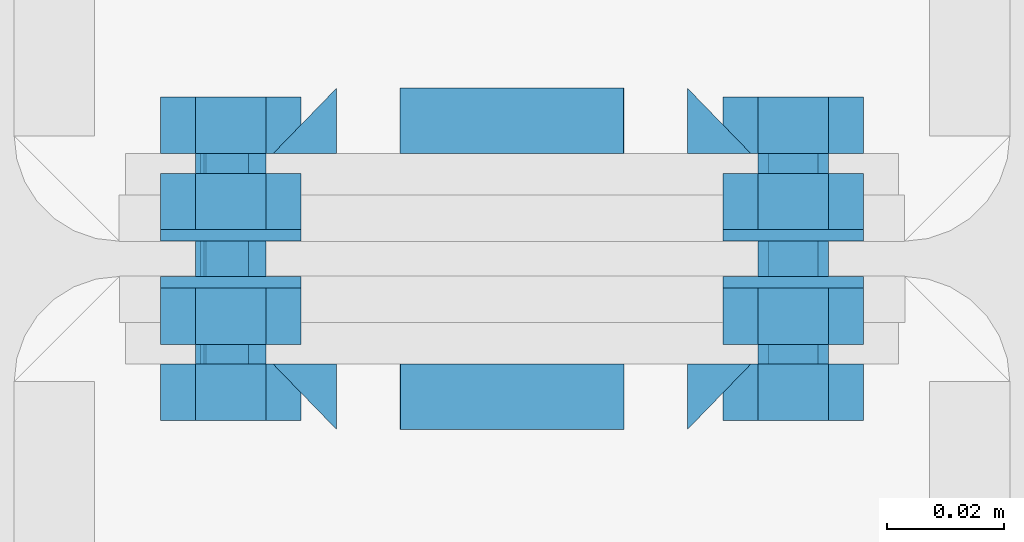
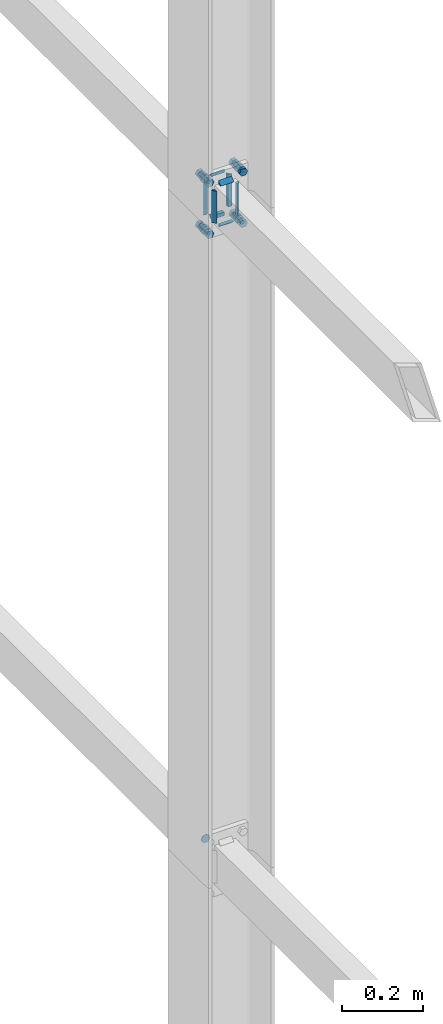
# One storey, part 114 of 251: 33 mechanical fasteners, 16 fasteners.
"""IFC4 building model written with IfcOpenShell, lengths in metres."""

from ifc_helpers import new_model, si_unit, frame, origin_with_axes, place, context, project, spatial, polyline, outline, extrude, type_object, element, save


model = new_model("IFC4")

# Units and contexts
model_context = context("Model", 3, precision=1e-05, world=origin_with_axes())
ifc_project = project(units=[si_unit("LENGTHUNIT", "METRE"), si_unit("AREAUNIT", "SQUARE_METRE"), si_unit("VOLUMEUNIT", "CUBIC_METRE"), si_unit("MASSUNIT", "GRAM", prefix="KILO"), si_unit("TIMEUNIT", "SECOND"), si_unit("PLANEANGLEUNIT", "RADIAN"), si_unit("SOLIDANGLEUNIT", "STERADIAN"), si_unit("THERMODYNAMICTEMPERATUREUNIT", "DEGREE_CELSIUS")], contexts=[model_context])

# Site, building, storey
placement_1 = place(None, origin_with_axes())
site = spatial("IfcSite", under=ifc_project, at=placement_1, Name="Italia", CompositionType="ELEMENT")
building = spatial("IfcBuilding", under=site, at=placement_1, Name="Deposito", CompositionType="ELEMENT")
storey = spatial("IfcBuildingStorey", under=building, at=placement_1, Name="Storey 0", CompositionType="ELEMENT", Elevation=0.0)

# Mechanical fastener
mechanical_fastener_type_1 = type_object("IfcMechanicalFastenerType", Name="Collegamenti -001_-002 -002_-001 -002_-003 -003_-002 -003_-004 -004_-003 -004_-008 -008_-004 -009_-010 -010_-009 -010_-011 -011_-010 -011_-012 -012_-011 -012_-016 -016_-012", PredefinedType="BOLT")
placement_2 = place(placement_1, origin_with_axes())
mechanical_fastener_1_placement = place(placement_2, origin_with_axes())
element("IfcMechanicalFastener", 1, at=mechanical_fastener_1_placement, inside=storey, type_object=mechanical_fastener_type_1, Name="Collegamenti -001_-002 -002_-001 -002_-003 -003_-002 -003_-004 -004_-003 -004_-008 -008_-004 -009_-010 -010_-009 -010_-011 -011_-010 -011_-012 -012_-011 -012_-016 -016_-012", NominalDiameter=0.024, context=model_context, shape_type="SweptSolid", body=[
    extrude(outline(polyline([(0.0, 0.0), (-0.000408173, -0.00310588), (-0.00160599, -0.00600004), (-0.00351334, -0.00848532), (-0.00599861, -0.0103923), (-0.00889397, -0.0115911), (-0.0119991, -0.012), (-0.0151043, -0.0115911), (-0.0179996, -0.0103923), (-0.0204849, -0.00848532), (-0.0223923, -0.00600004), (-0.0235901, -0.00310588), (-0.0239983, 0.0), (-0.0235901, 0.00310588), (-0.0223923, 0.00600004), (-0.0204849, 0.00848532), (-0.0179996, 0.0103923), (-0.0151043, 0.0115911), (-0.0119991, 0.012), (-0.00889397, 0.0115911), (-0.00599861, 0.0103923), (-0.00351334, 0.00848532), (-0.00160599, 0.00600004), (-0.000408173, 0.00310588), (0.0, 0.0)])), frame((19.94, 4.995, 1.078), z_axis=(0.0, 1.0, 0.0), x_axis=(-1.0, 0.0, 0.0)), (0.0, 0.0, 1.0), 0.00200033),
])

# Fasteners
fastener_type_1 = type_object("IfcFastenerType", Name="Collegamenti -001_-002 -002_-001 -002_-003 -003_-002 -003_-004 -004_-003 -004_-008 -008_-004 -009_-010 -010_-009 -010_-011 -011_-010 -011_-012 -012_-011 -012_-016 -016_-012", PredefinedType="WELD")
fastener_1_placement = place(placement_2, origin_with_axes())
element("IfcFastener", 2, at=fastener_1_placement, inside=storey, type_object=fastener_type_1, Name="Collegamenti -001_-002 -002_-001 -002_-003 -003_-002 -003_-004 -004_-003 -004_-008 -008_-004 -009_-010 -010_-009 -010_-011 -011_-010 -011_-012 -012_-011 -012_-016 -016_-012", context=model_context, shape_type="SweptSolid", body=[
    extrude(outline(polyline([(0.0, 0.0), (0.0111732, -0.0108383), (0.0, -0.0108383), (0.0, 0.0)])), frame((20.0191, 4.98205, 3.07079), z_axis=(-1.0, 0.0, 0.0), x_axis=(0.0, -1.0, 0.0)), (0.0, 0.0, 1.0), 0.0381012),
])
fastener_type_2 = type_object("IfcFastenerType", Name="Collegamenti -001_-002 -002_-001 -002_-003 -003_-002 -003_-004 -004_-003 -004_-008 -008_-004 -009_-010 -010_-009 -010_-011 -011_-010 -011_-012 -012_-011 -012_-016 -016_-012", PredefinedType="WELD")
fastener_2_placement = place(placement_2, origin_with_axes())
element("IfcFastener", 3, at=fastener_2_placement, inside=storey, type_object=fastener_type_2, Name="Collegamenti -001_-002 -002_-001 -002_-003 -003_-002 -003_-004 -004_-003 -004_-008 -008_-004 -009_-010 -010_-009 -010_-011 -011_-010 -011_-012 -012_-011 -012_-016 -016_-012", context=model_context, shape_type="SweptSolid", body=[
    extrude(outline(polyline([(0.0, 0.0), (-0.0111732, 0.0108376), (0.0, 0.0108376), (0.0, 0.0)])), frame((20.0408, 4.98205, 2.95095), z_axis=(0.0, 0.0, 1.0), x_axis=(0.0, 1.0, 0.0)), (0.0, 0.0, 1.0), 0.0980997),
])
fastener_type_3 = type_object("IfcFastenerType", Name="Collegamenti -001_-002 -002_-001 -002_-003 -003_-002 -003_-004 -004_-003 -004_-008 -008_-004 -009_-010 -010_-009 -010_-011 -011_-010 -011_-012 -012_-011 -012_-016 -016_-012", PredefinedType="WELD")
fastener_3_placement = place(placement_2, origin_with_axes())
element("IfcFastener", 4, at=fastener_3_placement, inside=storey, type_object=fastener_type_3, Name="Collegamenti -001_-002 -002_-001 -002_-003 -003_-002 -003_-004 -004_-003 -004_-008 -008_-004 -009_-010 -010_-009 -010_-011 -011_-010 -011_-012 -012_-011 -012_-016 -016_-012", context=model_context, shape_type="SweptSolid", body=[
    extrude(outline(polyline([(0.0, 0.0), (-0.0111732, 0.0108376), (0.0, 0.0108376), (0.0, 0.0)])), frame((19.9592, 4.98205, 3.04905), z_axis=(0.0, 0.0, -1.0), x_axis=(0.0, 1.0, 0.0)), (0.0, 0.0, 1.0), 0.0980997),
])
fastener_type_4 = type_object("IfcFastenerType", Name="Collegamenti -001_-002 -002_-001 -002_-003 -003_-002 -003_-004 -004_-003 -004_-008 -008_-004 -009_-010 -010_-009 -010_-011 -011_-010 -011_-012 -012_-011 -012_-016 -016_-012", PredefinedType="WELD")
fastener_4_placement = place(placement_2, origin_with_axes())
element("IfcFastener", 5, at=fastener_4_placement, inside=storey, type_object=fastener_type_4, Name="Collegamenti -001_-002 -002_-001 -002_-003 -003_-002 -003_-004 -004_-003 -004_-008 -008_-004 -009_-010 -010_-009 -010_-011 -011_-010 -011_-012 -012_-011 -012_-016 -016_-012", context=model_context, shape_type="SweptSolid", body=[
    extrude(outline(polyline([(0.0, 0.0), (-0.0111732, 0.0108383), (0.0, 0.0108383), (0.0, 0.0)])), frame((19.9809, 4.98205, 2.92921), z_axis=(1.0, 0.0, 0.0), x_axis=(0.0, 1.0, 0.0)), (0.0, 0.0, 1.0), 0.0381012),
])
fastener_type_5 = type_object("IfcFastenerType", Name="Collegamenti -001_-002 -002_-001 -002_-003 -003_-002 -003_-004 -004_-003 -004_-008 -008_-004 -009_-010 -010_-009 -010_-011 -011_-010 -011_-012 -012_-011 -012_-016 -016_-012", PredefinedType="WELD")
fastener_5_placement = place(placement_2, origin_with_axes())
element("IfcFastener", 6, at=fastener_5_placement, inside=storey, type_object=fastener_type_5, Name="Collegamenti -001_-002 -002_-001 -002_-003 -003_-002 -003_-004 -004_-003 -004_-008 -008_-004 -009_-010 -010_-009 -010_-011 -011_-010 -011_-012 -012_-011 -012_-016 -016_-012", context=model_context, shape_type="SweptSolid", body=[
    extrude(outline(polyline([(0.0, 0.0), (0.0111732, -0.0108383), (0.0, -0.0108383), (0.0, 0.0)])), frame((20.0191, 4.98205, 3.07079), z_axis=(-1.0, 0.0, 0.0), x_axis=(0.0, -1.0, 0.0)), (0.0, 0.0, 1.0), 0.0381012),
])
fastener_type_6 = type_object("IfcFastenerType", Name="Collegamenti -001_-002 -002_-001 -002_-003 -003_-002 -003_-004 -004_-003 -004_-008 -008_-004 -009_-010 -010_-009 -010_-011 -011_-010 -011_-012 -012_-011 -012_-016 -016_-012", PredefinedType="WELD")
fastener_6_placement = place(placement_2, origin_with_axes())
element("IfcFastener", 7, at=fastener_6_placement, inside=storey, type_object=fastener_type_6, Name="Collegamenti -001_-002 -002_-001 -002_-003 -003_-002 -003_-004 -004_-003 -004_-008 -008_-004 -009_-010 -010_-009 -010_-011 -011_-010 -011_-012 -012_-011 -012_-016 -016_-012", context=model_context, shape_type="SweptSolid", body=[
    extrude(outline(polyline([(0.0, 0.0), (-0.0111732, 0.0108376), (0.0, 0.0108376), (0.0, 0.0)])), frame((20.0408, 4.98205, 2.95095), z_axis=(0.0, 0.0, 1.0), x_axis=(0.0, 1.0, 0.0)), (0.0, 0.0, 1.0), 0.0980997),
])
fastener_type_7 = type_object("IfcFastenerType", Name="Collegamenti -001_-002 -002_-001 -002_-003 -003_-002 -003_-004 -004_-003 -004_-008 -008_-004 -009_-010 -010_-009 -010_-011 -011_-010 -011_-012 -012_-011 -012_-016 -016_-012", PredefinedType="WELD")
fastener_7_placement = place(placement_2, origin_with_axes())
element("IfcFastener", 8, at=fastener_7_placement, inside=storey, type_object=fastener_type_7, Name="Collegamenti -001_-002 -002_-001 -002_-003 -003_-002 -003_-004 -004_-003 -004_-008 -008_-004 -009_-010 -010_-009 -010_-011 -011_-010 -011_-012 -012_-011 -012_-016 -016_-012", context=model_context, shape_type="SweptSolid", body=[
    extrude(outline(polyline([(0.0, 0.0), (-0.0111732, 0.0108376), (0.0, 0.0108376), (0.0, 0.0)])), frame((19.9592, 4.98205, 3.04905), z_axis=(0.0, 0.0, -1.0), x_axis=(0.0, 1.0, 0.0)), (0.0, 0.0, 1.0), 0.0980997),
])
fastener_type_8 = type_object("IfcFastenerType", Name="Collegamenti -001_-002 -002_-001 -002_-003 -003_-002 -003_-004 -004_-003 -004_-008 -008_-004 -009_-010 -010_-009 -010_-011 -011_-010 -011_-012 -012_-011 -012_-016 -016_-012", PredefinedType="WELD")
fastener_8_placement = place(placement_2, origin_with_axes())
element("IfcFastener", 9, at=fastener_8_placement, inside=storey, type_object=fastener_type_8, Name="Collegamenti -001_-002 -002_-001 -002_-003 -003_-002 -003_-004 -004_-003 -004_-008 -008_-004 -009_-010 -010_-009 -010_-011 -011_-010 -011_-012 -012_-011 -012_-016 -016_-012", context=model_context, shape_type="SweptSolid", body=[
    extrude(outline(polyline([(0.0, 0.0), (-0.0111732, 0.0108383), (0.0, 0.0108383), (0.0, 0.0)])), frame((19.9809, 4.98205, 2.92921), z_axis=(1.0, 0.0, 0.0), x_axis=(0.0, 1.0, 0.0)), (0.0, 0.0, 1.0), 0.0381012),
])

# Mechanical fasteners
mechanical_fastener_type_2 = type_object("IfcMechanicalFastenerType", Name="Collegamenti -001_-002 -002_-001 -002_-003 -003_-002 -003_-004 -004_-003 -004_-008 -008_-004 -009_-010 -010_-009 -010_-011 -011_-010 -011_-012 -012_-011 -012_-016 -016_-012", PredefinedType="BOLT")
mechanical_fastener_2_placement = place(placement_2, origin_with_axes())
element("IfcMechanicalFastener", 10, at=mechanical_fastener_2_placement, inside=storey, type_object=mechanical_fastener_type_2, Name="Collegamenti -001_-002 -002_-001 -002_-003 -003_-002 -003_-004 -004_-003 -004_-008 -008_-004 -009_-010 -010_-009 -010_-011 -011_-010 -011_-012 -012_-011 -012_-016 -016_-012", NominalDiameter=0.0119992, context=model_context, shape_type="SweptSolid", body=[
    extrude(outline(polyline([(0.0, 0.0), (-0.012001, 0.0), (-0.0179996, 0.0103922), (-0.012001, 0.0207846), (0.0, 0.0207846), (0.00600052, 0.0103922), (0.0, 0.0)])), frame((19.958, 4.982, 2.91161), z_axis=(0.0, -1.0, 0.0), x_axis=(1.0, 0.0, 0.0)), (0.0, 0.0, 1.0), 0.00959969),
])
mechanical_fastener_type_3 = type_object("IfcMechanicalFastenerType", Name="Collegamenti -001_-002 -002_-001 -002_-003 -003_-002 -003_-004 -004_-003 -004_-008 -008_-004 -009_-010 -010_-009 -010_-011 -011_-010 -011_-012 -012_-011 -012_-016 -016_-012", PredefinedType="BOLT")
mechanical_fastener_3_placement = place(placement_2, origin_with_axes())
element("IfcMechanicalFastener", 11, at=mechanical_fastener_3_placement, inside=storey, type_object=mechanical_fastener_type_3, Name="Collegamenti -001_-002 -002_-001 -002_-003 -003_-002 -003_-004 -004_-003 -004_-008 -008_-004 -009_-010 -010_-009 -010_-011 -011_-010 -011_-012 -012_-011 -012_-016 -016_-012", NominalDiameter=0.012, context=model_context, shape_type="SweptSolid", body=[
    extrude(outline(polyline([(0.0, 0.0), (-0.000204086, -0.00155282), (-0.000804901, -0.00300002), (-0.00175858, -0.00424266), (-0.00300026, -0.00519609), (-0.00444794, -0.00579548), (-0.00600052, -0.00600004), (-0.0075531, -0.00579548), (-0.00900078, -0.00519609), (-0.0102425, -0.00424266), (-0.0111961, -0.00300002), (-0.011797, -0.00155282), (-0.012001, 0.0), (-0.011797, 0.00155282), (-0.0111961, 0.00300002), (-0.0102425, 0.00424266), (-0.00900078, 0.00519609), (-0.0075531, 0.00579548), (-0.00600052, 0.00600004), (-0.00444794, 0.00579548), (-0.00300026, 0.00519609), (-0.00175858, 0.00424266), (-0.000804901, 0.00300002), (-0.000204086, 0.00155282), (0.0, 0.0)])), frame((19.958, 5.021, 2.922), z_axis=(0.0, -1.0, 0.0), x_axis=(1.0, 0.0, 0.0)), (0.0, 0.0, 1.0), 0.039),
])
mechanical_fastener_type_4 = type_object("IfcMechanicalFastenerType", Name="Collegamenti -001_-002 -002_-001 -002_-003 -003_-002 -003_-004 -004_-003 -004_-008 -008_-004 -009_-010 -010_-009 -010_-011 -011_-010 -011_-012 -012_-011 -012_-016 -016_-012", PredefinedType="BOLT")
mechanical_fastener_4_placement = place(placement_2, origin_with_axes())
element("IfcMechanicalFastener", 12, at=mechanical_fastener_4_placement, inside=storey, type_object=mechanical_fastener_type_4, Name="Collegamenti -001_-002 -002_-001 -002_-003 -003_-002 -003_-004 -004_-003 -004_-008 -008_-004 -009_-010 -010_-009 -010_-011 -011_-010 -011_-012 -012_-011 -012_-016 -016_-012", NominalDiameter=0.0119992, context=model_context, shape_type="SweptSolid", body=[
    extrude(outline(polyline([(0.0, 0.0), (-0.012001, 0.0), (-0.0179996, 0.0103922), (-0.012001, 0.0207846), (0.0, 0.0207846), (0.00600052, 0.0103922), (0.0, 0.0)])), frame((19.958, 5.0146, 2.91161), z_axis=(0.0, -1.0, 0.0), x_axis=(1.0, 0.0, 0.0)), (0.0, 0.0, 1.0), 0.00959969),
])
mechanical_fastener_type_5 = type_object("IfcMechanicalFastenerType", Name="Collegamenti -001_-002 -002_-001 -002_-003 -003_-002 -003_-004 -004_-003 -004_-008 -008_-004 -009_-010 -010_-009 -010_-011 -011_-010 -011_-012 -012_-011 -012_-016 -016_-012", PredefinedType="BOLT")
mechanical_fastener_5_placement = place(placement_2, origin_with_axes())
element("IfcMechanicalFastener", 13, at=mechanical_fastener_5_placement, inside=storey, type_object=mechanical_fastener_type_5, Name="Collegamenti -001_-002 -002_-001 -002_-003 -003_-002 -003_-004 -004_-003 -004_-008 -008_-004 -009_-010 -010_-009 -010_-011 -011_-010 -011_-012 -012_-011 -012_-016 -016_-012", NominalDiameter=0.024, context=model_context, shape_type="SweptSolid", body=[
    extrude(outline(polyline([(0.0, 0.0), (-0.000408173, -0.00310588), (-0.00160599, -0.00600004), (-0.00351334, -0.00848532), (-0.00599861, -0.0103922), (-0.00889397, -0.0115912), (-0.0119991, -0.0120001), (-0.0151043, -0.0115912), (-0.0179996, -0.0103922), (-0.0204849, -0.00848532), (-0.0223923, -0.00600004), (-0.0235901, -0.00310588), (-0.0239983, 0.0), (-0.0235901, 0.00310588), (-0.0223923, 0.00600004), (-0.0204849, 0.00848532), (-0.0179996, 0.0103922), (-0.0151043, 0.0115912), (-0.0119991, 0.0120001), (-0.00889397, 0.0115912), (-0.00599861, 0.0103922), (-0.00351334, 0.00848532), (-0.00160599, 0.00600004), (-0.000408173, 0.00310588), (0.0, 0.0)])), frame((19.964, 5.005, 2.922), z_axis=(0.0, -1.0, 0.0), x_axis=(1.0, 0.0, 0.0)), (0.0, 0.0, 1.0), 0.00200033),
])
mechanical_fastener_type_6 = type_object("IfcMechanicalFastenerType", Name="Collegamenti -001_-002 -002_-001 -002_-003 -003_-002 -003_-004 -004_-003 -004_-008 -008_-004 -009_-010 -010_-009 -010_-011 -011_-010 -011_-012 -012_-011 -012_-016 -016_-012", PredefinedType="BOLT")
mechanical_fastener_6_placement = place(placement_2, origin_with_axes())
element("IfcMechanicalFastener", 14, at=mechanical_fastener_6_placement, inside=storey, type_object=mechanical_fastener_type_6, Name="Collegamenti -001_-002 -002_-001 -002_-003 -003_-002 -003_-004 -004_-003 -004_-008 -008_-004 -009_-010 -010_-009 -010_-011 -011_-010 -011_-012 -012_-011 -012_-016 -016_-012", NominalDiameter=0.0119992, context=model_context, shape_type="SweptSolid", body=[
    extrude(outline(polyline([(0.0, 0.0), (-0.012001, 0.0), (-0.0180016, 0.0103922), (-0.012001, 0.0207846), (0.0, 0.0207846), (0.00599861, 0.0103922), (0.0, 0.0)])), frame((20.054, 4.982, 2.91161), z_axis=(0.0, -1.0, 0.0), x_axis=(1.0, 0.0, 0.0)), (0.0, 0.0, 1.0), 0.00959969),
])
mechanical_fastener_type_7 = type_object("IfcMechanicalFastenerType", Name="Collegamenti -001_-002 -002_-001 -002_-003 -003_-002 -003_-004 -004_-003 -004_-008 -008_-004 -009_-010 -010_-009 -010_-011 -011_-010 -011_-012 -012_-011 -012_-016 -016_-012", PredefinedType="BOLT")
mechanical_fastener_7_placement = place(placement_2, origin_with_axes())
element("IfcMechanicalFastener", 15, at=mechanical_fastener_7_placement, inside=storey, type_object=mechanical_fastener_type_7, Name="Collegamenti -001_-002 -002_-001 -002_-003 -003_-002 -003_-004 -004_-003 -004_-008 -008_-004 -009_-010 -010_-009 -010_-011 -011_-010 -011_-012 -012_-011 -012_-016 -016_-012", NominalDiameter=0.012, context=model_context, shape_type="SweptSolid", body=[
    extrude(outline(polyline([(0.0, 0.0), (-0.000204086, -0.00155282), (-0.000804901, -0.00300002), (-0.00175858, -0.00424266), (-0.00300026, -0.00519609), (-0.00444794, -0.00579548), (-0.00600052, -0.00600004), (-0.0075531, -0.00579548), (-0.00900078, -0.00519609), (-0.0102425, -0.00424266), (-0.0111961, -0.00300002), (-0.011797, -0.00155282), (-0.012001, 0.0), (-0.011797, 0.00155282), (-0.0111961, 0.00300002), (-0.0102425, 0.00424266), (-0.00900078, 0.00519609), (-0.0075531, 0.00579548), (-0.00600052, 0.00600004), (-0.00444794, 0.00579548), (-0.00300026, 0.00519609), (-0.00175858, 0.00424266), (-0.000804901, 0.00300002), (-0.000204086, 0.00155282), (0.0, 0.0)])), frame((20.054, 5.021, 2.922), z_axis=(0.0, -1.0, 0.0), x_axis=(1.0, 0.0, 0.0)), (0.0, 0.0, 1.0), 0.039),
])
mechanical_fastener_type_8 = type_object("IfcMechanicalFastenerType", Name="Collegamenti -001_-002 -002_-001 -002_-003 -003_-002 -003_-004 -004_-003 -004_-008 -008_-004 -009_-010 -010_-009 -010_-011 -011_-010 -011_-012 -012_-011 -012_-016 -016_-012", PredefinedType="BOLT")
mechanical_fastener_8_placement = place(placement_2, origin_with_axes())
element("IfcMechanicalFastener", 16, at=mechanical_fastener_8_placement, inside=storey, type_object=mechanical_fastener_type_8, Name="Collegamenti -001_-002 -002_-001 -002_-003 -003_-002 -003_-004 -004_-003 -004_-008 -008_-004 -009_-010 -010_-009 -010_-011 -011_-010 -011_-012 -012_-011 -012_-016 -016_-012", NominalDiameter=0.0119992, context=model_context, shape_type="SweptSolid", body=[
    extrude(outline(polyline([(0.0, 0.0), (-0.012001, 0.0), (-0.0180016, 0.0103922), (-0.012001, 0.0207846), (0.0, 0.0207846), (0.00599861, 0.0103922), (0.0, 0.0)])), frame((20.054, 5.0146, 2.91161), z_axis=(0.0, -1.0, 0.0), x_axis=(1.0, 0.0, 0.0)), (0.0, 0.0, 1.0), 0.00959969),
])
mechanical_fastener_type_9 = type_object("IfcMechanicalFastenerType", Name="Collegamenti -001_-002 -002_-001 -002_-003 -003_-002 -003_-004 -004_-003 -004_-008 -008_-004 -009_-010 -010_-009 -010_-011 -011_-010 -011_-012 -012_-011 -012_-016 -016_-012", PredefinedType="BOLT")
mechanical_fastener_9_placement = place(placement_2, origin_with_axes())
element("IfcMechanicalFastener", 17, at=mechanical_fastener_9_placement, inside=storey, type_object=mechanical_fastener_type_9, Name="Collegamenti -001_-002 -002_-001 -002_-003 -003_-002 -003_-004 -004_-003 -004_-008 -008_-004 -009_-010 -010_-009 -010_-011 -011_-010 -011_-012 -012_-011 -012_-016 -016_-012", NominalDiameter=0.024, context=model_context, shape_type="SweptSolid", body=[
    extrude(outline(polyline([(0.0, 0.0), (-0.000408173, -0.00310588), (-0.00160599, -0.00600004), (-0.00351334, -0.00848532), (-0.00599861, -0.0103922), (-0.00889397, -0.0115912), (-0.0119991, -0.0120001), (-0.0151043, -0.0115912), (-0.0179996, -0.0103922), (-0.0204849, -0.00848532), (-0.0223923, -0.00600004), (-0.0235901, -0.00310588), (-0.0239983, 0.0), (-0.0235901, 0.00310588), (-0.0223923, 0.00600004), (-0.0204849, 0.00848532), (-0.0179996, 0.0103922), (-0.0151043, 0.0115912), (-0.0119991, 0.0120001), (-0.00889397, 0.0115912), (-0.00599861, 0.0103922), (-0.00351334, 0.00848532), (-0.00160599, 0.00600004), (-0.000408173, 0.00310588), (0.0, 0.0)])), frame((20.06, 5.005, 2.922), z_axis=(0.0, -1.0, 0.0), x_axis=(1.0, 0.0, 0.0)), (0.0, 0.0, 1.0), 0.00200033),
])
mechanical_fastener_type_10 = type_object("IfcMechanicalFastenerType", Name="Collegamenti -001_-002 -002_-001 -002_-003 -003_-002 -003_-004 -004_-003 -004_-008 -008_-004 -009_-010 -010_-009 -010_-011 -011_-010 -011_-012 -012_-011 -012_-016 -016_-012", PredefinedType="BOLT")
mechanical_fastener_10_placement = place(placement_2, origin_with_axes())
element("IfcMechanicalFastener", 18, at=mechanical_fastener_10_placement, inside=storey, type_object=mechanical_fastener_type_10, Name="Collegamenti -001_-002 -002_-001 -002_-003 -003_-002 -003_-004 -004_-003 -004_-008 -008_-004 -009_-010 -010_-009 -010_-011 -011_-010 -011_-012 -012_-011 -012_-016 -016_-012", NominalDiameter=0.0119992, context=model_context, shape_type="SweptSolid", body=[
    extrude(outline(polyline([(0.0, 0.0), (-0.012001, 0.0), (-0.0179996, 0.0103924), (-0.012001, 0.0207846), (0.0, 0.0207846), (0.00600052, 0.0103924), (0.0, 0.0)])), frame((19.958, 4.982, 3.06761), z_axis=(0.0, -1.0, 0.0), x_axis=(1.0, 0.0, 0.0)), (0.0, 0.0, 1.0), 0.00959969),
])
mechanical_fastener_type_11 = type_object("IfcMechanicalFastenerType", Name="Collegamenti -001_-002 -002_-001 -002_-003 -003_-002 -003_-004 -004_-003 -004_-008 -008_-004 -009_-010 -010_-009 -010_-011 -011_-010 -011_-012 -012_-011 -012_-016 -016_-012", PredefinedType="BOLT")
mechanical_fastener_11_placement = place(placement_2, origin_with_axes())
element("IfcMechanicalFastener", 19, at=mechanical_fastener_11_placement, inside=storey, type_object=mechanical_fastener_type_11, Name="Collegamenti -001_-002 -002_-001 -002_-003 -003_-002 -003_-004 -004_-003 -004_-008 -008_-004 -009_-010 -010_-009 -010_-011 -011_-010 -011_-012 -012_-011 -012_-016 -016_-012", NominalDiameter=0.012, context=model_context, shape_type="SweptSolid", body=[
    extrude(outline(polyline([(0.0, 0.0), (-0.000204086, -0.00155282), (-0.000804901, -0.00300002), (-0.00175858, -0.00424266), (-0.00300026, -0.00519609), (-0.00444794, -0.00579548), (-0.00600052, -0.00600004), (-0.0075531, -0.00579548), (-0.00900078, -0.00519609), (-0.0102425, -0.00424266), (-0.0111961, -0.00300002), (-0.011797, -0.00155282), (-0.012001, 0.0), (-0.011797, 0.00155282), (-0.0111961, 0.00300002), (-0.0102425, 0.00424266), (-0.00900078, 0.00519609), (-0.0075531, 0.00579548), (-0.00600052, 0.00600004), (-0.00444794, 0.00579548), (-0.00300026, 0.00519609), (-0.00175858, 0.00424266), (-0.000804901, 0.00300002), (-0.000204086, 0.00155282), (0.0, 0.0)])), frame((19.958, 5.021, 3.078), z_axis=(0.0, -1.0, 0.0), x_axis=(1.0, 0.0, 0.0)), (0.0, 0.0, 1.0), 0.039),
])
mechanical_fastener_type_12 = type_object("IfcMechanicalFastenerType", Name="Collegamenti -001_-002 -002_-001 -002_-003 -003_-002 -003_-004 -004_-003 -004_-008 -008_-004 -009_-010 -010_-009 -010_-011 -011_-010 -011_-012 -012_-011 -012_-016 -016_-012", PredefinedType="BOLT")
mechanical_fastener_12_placement = place(placement_2, origin_with_axes())
element("IfcMechanicalFastener", 20, at=mechanical_fastener_12_placement, inside=storey, type_object=mechanical_fastener_type_12, Name="Collegamenti -001_-002 -002_-001 -002_-003 -003_-002 -003_-004 -004_-003 -004_-008 -008_-004 -009_-010 -010_-009 -010_-011 -011_-010 -011_-012 -012_-011 -012_-016 -016_-012", NominalDiameter=0.0119992, context=model_context, shape_type="SweptSolid", body=[
    extrude(outline(polyline([(0.0, 0.0), (-0.012001, 0.0), (-0.0179996, 0.0103924), (-0.012001, 0.0207846), (0.0, 0.0207846), (0.00600052, 0.0103924), (0.0, 0.0)])), frame((19.958, 5.0146, 3.06761), z_axis=(0.0, -1.0, 0.0), x_axis=(1.0, 0.0, 0.0)), (0.0, 0.0, 1.0), 0.00959969),
])
mechanical_fastener_type_13 = type_object("IfcMechanicalFastenerType", Name="Collegamenti -001_-002 -002_-001 -002_-003 -003_-002 -003_-004 -004_-003 -004_-008 -008_-004 -009_-010 -010_-009 -010_-011 -011_-010 -011_-012 -012_-011 -012_-016 -016_-012", PredefinedType="BOLT")
mechanical_fastener_13_placement = place(placement_2, origin_with_axes())
element("IfcMechanicalFastener", 21, at=mechanical_fastener_13_placement, inside=storey, type_object=mechanical_fastener_type_13, Name="Collegamenti -001_-002 -002_-001 -002_-003 -003_-002 -003_-004 -004_-003 -004_-008 -008_-004 -009_-010 -010_-009 -010_-011 -011_-010 -011_-012 -012_-011 -012_-016 -016_-012", NominalDiameter=0.024, context=model_context, shape_type="SweptSolid", body=[
    extrude(outline(polyline([(0.0, 0.0), (-0.000408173, -0.00310588), (-0.00160599, -0.00600004), (-0.00351334, -0.00848532), (-0.00599861, -0.0103922), (-0.00889397, -0.0115912), (-0.0119991, -0.0120001), (-0.0151043, -0.0115912), (-0.0179996, -0.0103922), (-0.0204849, -0.00848532), (-0.0223923, -0.00600004), (-0.0235901, -0.00310588), (-0.0239983, 0.0), (-0.0235901, 0.00310588), (-0.0223923, 0.00600004), (-0.0204849, 0.00848532), (-0.0179996, 0.0103922), (-0.0151043, 0.0115912), (-0.0119991, 0.0120001), (-0.00889397, 0.0115912), (-0.00599861, 0.0103922), (-0.00351334, 0.00848532), (-0.00160599, 0.00600004), (-0.000408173, 0.00310588), (0.0, 0.0)])), frame((19.964, 5.005, 3.078), z_axis=(0.0, -1.0, 0.0), x_axis=(1.0, 0.0, 0.0)), (0.0, 0.0, 1.0), 0.00200033),
])
mechanical_fastener_type_14 = type_object("IfcMechanicalFastenerType", Name="Collegamenti -001_-002 -002_-001 -002_-003 -003_-002 -003_-004 -004_-003 -004_-008 -008_-004 -009_-010 -010_-009 -010_-011 -011_-010 -011_-012 -012_-011 -012_-016 -016_-012", PredefinedType="BOLT")
mechanical_fastener_14_placement = place(placement_2, origin_with_axes())
element("IfcMechanicalFastener", 22, at=mechanical_fastener_14_placement, inside=storey, type_object=mechanical_fastener_type_14, Name="Collegamenti -001_-002 -002_-001 -002_-003 -003_-002 -003_-004 -004_-003 -004_-008 -008_-004 -009_-010 -010_-009 -010_-011 -011_-010 -011_-012 -012_-011 -012_-016 -016_-012", NominalDiameter=0.0119992, context=model_context, shape_type="SweptSolid", body=[
    extrude(outline(polyline([(0.0, 0.0), (-0.012001, 0.0), (-0.0180016, 0.0103924), (-0.012001, 0.0207846), (0.0, 0.0207846), (0.00599861, 0.0103924), (0.0, 0.0)])), frame((20.054, 4.982, 3.06761), z_axis=(0.0, -1.0, 0.0), x_axis=(1.0, 0.0, 0.0)), (0.0, 0.0, 1.0), 0.00959969),
])
mechanical_fastener_type_15 = type_object("IfcMechanicalFastenerType", Name="Collegamenti -001_-002 -002_-001 -002_-003 -003_-002 -003_-004 -004_-003 -004_-008 -008_-004 -009_-010 -010_-009 -010_-011 -011_-010 -011_-012 -012_-011 -012_-016 -016_-012", PredefinedType="BOLT")
mechanical_fastener_15_placement = place(placement_2, origin_with_axes())
element("IfcMechanicalFastener", 23, at=mechanical_fastener_15_placement, inside=storey, type_object=mechanical_fastener_type_15, Name="Collegamenti -001_-002 -002_-001 -002_-003 -003_-002 -003_-004 -004_-003 -004_-008 -008_-004 -009_-010 -010_-009 -010_-011 -011_-010 -011_-012 -012_-011 -012_-016 -016_-012", NominalDiameter=0.012, context=model_context, shape_type="SweptSolid", body=[
    extrude(outline(polyline([(0.0, 0.0), (-0.000204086, -0.00155282), (-0.000804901, -0.00300002), (-0.00175858, -0.00424266), (-0.00300026, -0.00519609), (-0.00444794, -0.00579548), (-0.00600052, -0.00600004), (-0.0075531, -0.00579548), (-0.00900078, -0.00519609), (-0.0102425, -0.00424266), (-0.0111961, -0.00300002), (-0.011797, -0.00155282), (-0.012001, 0.0), (-0.011797, 0.00155282), (-0.0111961, 0.00300002), (-0.0102425, 0.00424266), (-0.00900078, 0.00519609), (-0.0075531, 0.00579548), (-0.00600052, 0.00600004), (-0.00444794, 0.00579548), (-0.00300026, 0.00519609), (-0.00175858, 0.00424266), (-0.000804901, 0.00300002), (-0.000204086, 0.00155282), (0.0, 0.0)])), frame((20.054, 5.021, 3.078), z_axis=(0.0, -1.0, 0.0), x_axis=(1.0, 0.0, 0.0)), (0.0, 0.0, 1.0), 0.039),
])
mechanical_fastener_type_16 = type_object("IfcMechanicalFastenerType", Name="Collegamenti -001_-002 -002_-001 -002_-003 -003_-002 -003_-004 -004_-003 -004_-008 -008_-004 -009_-010 -010_-009 -010_-011 -011_-010 -011_-012 -012_-011 -012_-016 -016_-012", PredefinedType="BOLT")
mechanical_fastener_16_placement = place(placement_2, origin_with_axes())
element("IfcMechanicalFastener", 24, at=mechanical_fastener_16_placement, inside=storey, type_object=mechanical_fastener_type_16, Name="Collegamenti -001_-002 -002_-001 -002_-003 -003_-002 -003_-004 -004_-003 -004_-008 -008_-004 -009_-010 -010_-009 -010_-011 -011_-010 -011_-012 -012_-011 -012_-016 -016_-012", NominalDiameter=0.0119992, context=model_context, shape_type="SweptSolid", body=[
    extrude(outline(polyline([(0.0, 0.0), (-0.012001, 0.0), (-0.0180016, 0.0103924), (-0.012001, 0.0207846), (0.0, 0.0207846), (0.00599861, 0.0103924), (0.0, 0.0)])), frame((20.054, 5.0146, 3.06761), z_axis=(0.0, -1.0, 0.0), x_axis=(1.0, 0.0, 0.0)), (0.0, 0.0, 1.0), 0.00959969),
])
mechanical_fastener_type_17 = type_object("IfcMechanicalFastenerType", Name="Collegamenti -001_-002 -002_-001 -002_-003 -003_-002 -003_-004 -004_-003 -004_-008 -008_-004 -009_-010 -010_-009 -010_-011 -011_-010 -011_-012 -012_-011 -012_-016 -016_-012", PredefinedType="BOLT")
mechanical_fastener_17_placement = place(placement_2, origin_with_axes())
element("IfcMechanicalFastener", 25, at=mechanical_fastener_17_placement, inside=storey, type_object=mechanical_fastener_type_17, Name="Collegamenti -001_-002 -002_-001 -002_-003 -003_-002 -003_-004 -004_-003 -004_-008 -008_-004 -009_-010 -010_-009 -010_-011 -011_-010 -011_-012 -012_-011 -012_-016 -016_-012", NominalDiameter=0.024, context=model_context, shape_type="SweptSolid", body=[
    extrude(outline(polyline([(0.0, 0.0), (-0.000408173, -0.00310588), (-0.00160599, -0.00600004), (-0.00351334, -0.00848532), (-0.00599861, -0.0103922), (-0.00889397, -0.0115912), (-0.0119991, -0.0120001), (-0.0151043, -0.0115912), (-0.0179996, -0.0103922), (-0.0204849, -0.00848532), (-0.0223923, -0.00600004), (-0.0235901, -0.00310588), (-0.0239983, 0.0), (-0.0235901, 0.00310588), (-0.0223923, 0.00600004), (-0.0204849, 0.00848532), (-0.0179996, 0.0103922), (-0.0151043, 0.0115912), (-0.0119991, 0.0120001), (-0.00889397, 0.0115912), (-0.00599861, 0.0103922), (-0.00351334, 0.00848532), (-0.00160599, 0.00600004), (-0.000408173, 0.00310588), (0.0, 0.0)])), frame((20.06, 5.005, 3.078), z_axis=(0.0, -1.0, 0.0), x_axis=(1.0, 0.0, 0.0)), (0.0, 0.0, 1.0), 0.00200033),
])

# Fasteners
fastener_type_9 = type_object("IfcFastenerType", Name="Collegamenti -001_-002 -002_-001 -002_-003 -003_-002 -003_-004 -004_-003 -004_-008 -008_-004 -009_-010 -010_-009 -010_-011 -011_-010 -011_-012 -012_-011 -012_-016 -016_-012", PredefinedType="WELD")
fastener_9_placement = place(placement_2, origin_with_axes())
element("IfcFastener", 26, at=fastener_9_placement, inside=storey, type_object=fastener_type_9, Name="Collegamenti -001_-002 -002_-001 -002_-003 -003_-002 -003_-004 -004_-003 -004_-008 -008_-004 -009_-010 -010_-009 -010_-011 -011_-010 -011_-012 -012_-011 -012_-016 -016_-012", context=model_context, shape_type="SweptSolid", body=[
    extrude(outline(polyline([(0.0, 0.0), (0.0111732, -0.0108383), (0.0, -0.0108383), (0.0, 0.0)])), frame((19.9809, 5.01795, 3.07079), z_axis=(1.0, 0.0, 0.0), x_axis=(0.0, 1.0, 0.0)), (0.0, 0.0, 1.0), 0.0381012),
])
fastener_type_10 = type_object("IfcFastenerType", Name="Collegamenti -001_-002 -002_-001 -002_-003 -003_-002 -003_-004 -004_-003 -004_-008 -008_-004 -009_-010 -010_-009 -010_-011 -011_-010 -011_-012 -012_-011 -012_-016 -016_-012", PredefinedType="WELD")
fastener_10_placement = place(placement_2, origin_with_axes())
element("IfcFastener", 27, at=fastener_10_placement, inside=storey, type_object=fastener_type_10, Name="Collegamenti -001_-002 -002_-001 -002_-003 -003_-002 -003_-004 -004_-003 -004_-008 -008_-004 -009_-010 -010_-009 -010_-011 -011_-010 -011_-012 -012_-011 -012_-016 -016_-012", context=model_context, shape_type="SweptSolid", body=[
    extrude(outline(polyline([(0.0, 0.0), (0.0111732, -0.0108376), (0.0, -0.0108376), (0.0, 0.0)])), frame((19.9592, 5.01795, 2.95095), z_axis=(0.0, 0.0, 1.0), x_axis=(0.0, 1.0, 0.0)), (0.0, 0.0, 1.0), 0.0980997),
])
fastener_type_11 = type_object("IfcFastenerType", Name="Collegamenti -001_-002 -002_-001 -002_-003 -003_-002 -003_-004 -004_-003 -004_-008 -008_-004 -009_-010 -010_-009 -010_-011 -011_-010 -011_-012 -012_-011 -012_-016 -016_-012", PredefinedType="WELD")
fastener_11_placement = place(placement_2, origin_with_axes())
element("IfcFastener", 28, at=fastener_11_placement, inside=storey, type_object=fastener_type_11, Name="Collegamenti -001_-002 -002_-001 -002_-003 -003_-002 -003_-004 -004_-003 -004_-008 -008_-004 -009_-010 -010_-009 -010_-011 -011_-010 -011_-012 -012_-011 -012_-016 -016_-012", context=model_context, shape_type="SweptSolid", body=[
    extrude(outline(polyline([(0.0, 0.0), (0.0111732, -0.0108376), (0.0, -0.0108376), (0.0, 0.0)])), frame((20.0408, 5.01795, 3.04905), z_axis=(0.0, 0.0, -1.0), x_axis=(0.0, 1.0, 0.0)), (0.0, 0.0, 1.0), 0.0980997),
])
fastener_type_12 = type_object("IfcFastenerType", Name="Collegamenti -001_-002 -002_-001 -002_-003 -003_-002 -003_-004 -004_-003 -004_-008 -008_-004 -009_-010 -010_-009 -010_-011 -011_-010 -011_-012 -012_-011 -012_-016 -016_-012", PredefinedType="WELD")
fastener_12_placement = place(placement_2, origin_with_axes())
element("IfcFastener", 29, at=fastener_12_placement, inside=storey, type_object=fastener_type_12, Name="Collegamenti -001_-002 -002_-001 -002_-003 -003_-002 -003_-004 -004_-003 -004_-008 -008_-004 -009_-010 -010_-009 -010_-011 -011_-010 -011_-012 -012_-011 -012_-016 -016_-012", context=model_context, shape_type="SweptSolid", body=[
    extrude(outline(polyline([(0.0, 0.0), (-0.0111732, 0.0108383), (0.0, 0.0108383), (0.0, 0.0)])), frame((20.0191, 5.01795, 2.92921), z_axis=(-1.0, 0.0, 0.0), x_axis=(0.0, -1.0, 0.0)), (0.0, 0.0, 1.0), 0.0381012),
])
fastener_type_13 = type_object("IfcFastenerType", Name="Collegamenti -001_-002 -002_-001 -002_-003 -003_-002 -003_-004 -004_-003 -004_-008 -008_-004 -009_-010 -010_-009 -010_-011 -011_-010 -011_-012 -012_-011 -012_-016 -016_-012", PredefinedType="WELD")
fastener_13_placement = place(placement_2, origin_with_axes())
element("IfcFastener", 30, at=fastener_13_placement, inside=storey, type_object=fastener_type_13, Name="Collegamenti -001_-002 -002_-001 -002_-003 -003_-002 -003_-004 -004_-003 -004_-008 -008_-004 -009_-010 -010_-009 -010_-011 -011_-010 -011_-012 -012_-011 -012_-016 -016_-012", context=model_context, shape_type="SweptSolid", body=[
    extrude(outline(polyline([(0.0, 0.0), (0.0111732, -0.0108383), (0.0, -0.0108383), (0.0, 0.0)])), frame((19.9809, 5.01795, 3.07079), z_axis=(1.0, 0.0, 0.0), x_axis=(0.0, 1.0, 0.0)), (0.0, 0.0, 1.0), 0.0381012),
])
fastener_type_14 = type_object("IfcFastenerType", Name="Collegamenti -001_-002 -002_-001 -002_-003 -003_-002 -003_-004 -004_-003 -004_-008 -008_-004 -009_-010 -010_-009 -010_-011 -011_-010 -011_-012 -012_-011 -012_-016 -016_-012", PredefinedType="WELD")
fastener_14_placement = place(placement_2, origin_with_axes())
element("IfcFastener", 31, at=fastener_14_placement, inside=storey, type_object=fastener_type_14, Name="Collegamenti -001_-002 -002_-001 -002_-003 -003_-002 -003_-004 -004_-003 -004_-008 -008_-004 -009_-010 -010_-009 -010_-011 -011_-010 -011_-012 -012_-011 -012_-016 -016_-012", context=model_context, shape_type="SweptSolid", body=[
    extrude(outline(polyline([(0.0, 0.0), (0.0111732, -0.0108376), (0.0, -0.0108376), (0.0, 0.0)])), frame((19.9592, 5.01795, 2.95095), z_axis=(0.0, 0.0, 1.0), x_axis=(0.0, 1.0, 0.0)), (0.0, 0.0, 1.0), 0.0980997),
])
fastener_type_15 = type_object("IfcFastenerType", Name="Collegamenti -001_-002 -002_-001 -002_-003 -003_-002 -003_-004 -004_-003 -004_-008 -008_-004 -009_-010 -010_-009 -010_-011 -011_-010 -011_-012 -012_-011 -012_-016 -016_-012", PredefinedType="WELD")
fastener_15_placement = place(placement_2, origin_with_axes())
element("IfcFastener", 32, at=fastener_15_placement, inside=storey, type_object=fastener_type_15, Name="Collegamenti -001_-002 -002_-001 -002_-003 -003_-002 -003_-004 -004_-003 -004_-008 -008_-004 -009_-010 -010_-009 -010_-011 -011_-010 -011_-012 -012_-011 -012_-016 -016_-012", context=model_context, shape_type="SweptSolid", body=[
    extrude(outline(polyline([(0.0, 0.0), (0.0111732, -0.0108376), (0.0, -0.0108376), (0.0, 0.0)])), frame((20.0408, 5.01795, 3.04905), z_axis=(0.0, 0.0, -1.0), x_axis=(0.0, 1.0, 0.0)), (0.0, 0.0, 1.0), 0.0980997),
])
fastener_type_16 = type_object("IfcFastenerType", Name="Collegamenti -001_-002 -002_-001 -002_-003 -003_-002 -003_-004 -004_-003 -004_-008 -008_-004 -009_-010 -010_-009 -010_-011 -011_-010 -011_-012 -012_-011 -012_-016 -016_-012", PredefinedType="WELD")
fastener_16_placement = place(placement_2, origin_with_axes())
element("IfcFastener", 33, at=fastener_16_placement, inside=storey, type_object=fastener_type_16, Name="Collegamenti -001_-002 -002_-001 -002_-003 -003_-002 -003_-004 -004_-003 -004_-008 -008_-004 -009_-010 -010_-009 -010_-011 -011_-010 -011_-012 -012_-011 -012_-016 -016_-012", context=model_context, shape_type="SweptSolid", body=[
    extrude(outline(polyline([(0.0, 0.0), (-0.0111732, 0.0108383), (0.0, 0.0108383), (0.0, 0.0)])), frame((20.0191, 5.01795, 2.92921), z_axis=(-1.0, 0.0, 0.0), x_axis=(0.0, -1.0, 0.0)), (0.0, 0.0, 1.0), 0.0381012),
])

# Mechanical fasteners
mechanical_fastener_type_18 = type_object("IfcMechanicalFastenerType", Name="Collegamenti -001_-002 -002_-001 -002_-003 -003_-002 -003_-004 -004_-003 -004_-008 -008_-004 -009_-010 -010_-009 -010_-011 -011_-010 -011_-012 -012_-011 -012_-016 -016_-012", PredefinedType="BOLT")
mechanical_fastener_18_placement = place(placement_2, origin_with_axes())
element("IfcMechanicalFastener", 34, at=mechanical_fastener_18_placement, inside=storey, type_object=mechanical_fastener_type_18, Name="Collegamenti -001_-002 -002_-001 -002_-003 -003_-002 -003_-004 -004_-003 -004_-008 -008_-004 -009_-010 -010_-009 -010_-011 -011_-010 -011_-012 -012_-011 -012_-016 -016_-012", NominalDiameter=0.0119992, context=model_context, shape_type="SweptSolid", body=[
    extrude(outline(polyline([(0.0, 0.0), (-0.012001, 0.0), (-0.0179996, 0.0103922), (-0.012001, 0.0207846), (0.0, 0.0207846), (0.00600052, 0.0103922), (0.0, 0.0)])), frame((20.042, 5.018, 2.91161), z_axis=(0.0, 1.0, 0.0), x_axis=(-1.0, 0.0, 0.0)), (0.0, 0.0, 1.0), 0.00959969),
])
mechanical_fastener_type_19 = type_object("IfcMechanicalFastenerType", Name="Collegamenti -001_-002 -002_-001 -002_-003 -003_-002 -003_-004 -004_-003 -004_-008 -008_-004 -009_-010 -010_-009 -010_-011 -011_-010 -011_-012 -012_-011 -012_-016 -016_-012", PredefinedType="BOLT")
mechanical_fastener_19_placement = place(placement_2, origin_with_axes())
element("IfcMechanicalFastener", 35, at=mechanical_fastener_19_placement, inside=storey, type_object=mechanical_fastener_type_19, Name="Collegamenti -001_-002 -002_-001 -002_-003 -003_-002 -003_-004 -004_-003 -004_-008 -008_-004 -009_-010 -010_-009 -010_-011 -011_-010 -011_-012 -012_-011 -012_-016 -016_-012", NominalDiameter=0.012, context=model_context, shape_type="SweptSolid", body=[
    extrude(outline(polyline([(0.0, 0.0), (-0.000204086, -0.00155282), (-0.000804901, -0.00300002), (-0.00175858, -0.00424266), (-0.00300026, -0.00519609), (-0.00444794, -0.00579548), (-0.00600052, -0.00600004), (-0.0075531, -0.00579548), (-0.00900078, -0.00519609), (-0.0102425, -0.00424266), (-0.0111961, -0.00300002), (-0.011797, -0.00155282), (-0.012001, 0.0), (-0.011797, 0.00155282), (-0.0111961, 0.00300002), (-0.0102425, 0.00424266), (-0.00900078, 0.00519609), (-0.0075531, 0.00579548), (-0.00600052, 0.00600004), (-0.00444794, 0.00579548), (-0.00300026, 0.00519609), (-0.00175858, 0.00424266), (-0.000804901, 0.00300002), (-0.000204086, 0.00155282), (0.0, 0.0)])), frame((20.042, 4.979, 2.922), z_axis=(0.0, 1.0, 0.0), x_axis=(-1.0, 0.0, 0.0)), (0.0, 0.0, 1.0), 0.039),
])
mechanical_fastener_type_20 = type_object("IfcMechanicalFastenerType", Name="Collegamenti -001_-002 -002_-001 -002_-003 -003_-002 -003_-004 -004_-003 -004_-008 -008_-004 -009_-010 -010_-009 -010_-011 -011_-010 -011_-012 -012_-011 -012_-016 -016_-012", PredefinedType="BOLT")
mechanical_fastener_20_placement = place(placement_2, origin_with_axes())
element("IfcMechanicalFastener", 36, at=mechanical_fastener_20_placement, inside=storey, type_object=mechanical_fastener_type_20, Name="Collegamenti -001_-002 -002_-001 -002_-003 -003_-002 -003_-004 -004_-003 -004_-008 -008_-004 -009_-010 -010_-009 -010_-011 -011_-010 -011_-012 -012_-011 -012_-016 -016_-012", NominalDiameter=0.0119992, context=model_context, shape_type="SweptSolid", body=[
    extrude(outline(polyline([(0.0, 0.0), (-0.012001, 0.0), (-0.0179996, 0.0103922), (-0.012001, 0.0207846), (0.0, 0.0207846), (0.00600052, 0.0103922), (0.0, 0.0)])), frame((20.042, 4.9854, 2.91161), z_axis=(0.0, 1.0, 0.0), x_axis=(-1.0, 0.0, 0.0)), (0.0, 0.0, 1.0), 0.00959969),
])
mechanical_fastener_type_21 = type_object("IfcMechanicalFastenerType", Name="Collegamenti -001_-002 -002_-001 -002_-003 -003_-002 -003_-004 -004_-003 -004_-008 -008_-004 -009_-010 -010_-009 -010_-011 -011_-010 -011_-012 -012_-011 -012_-016 -016_-012", PredefinedType="BOLT")
mechanical_fastener_21_placement = place(placement_2, origin_with_axes())
element("IfcMechanicalFastener", 37, at=mechanical_fastener_21_placement, inside=storey, type_object=mechanical_fastener_type_21, Name="Collegamenti -001_-002 -002_-001 -002_-003 -003_-002 -003_-004 -004_-003 -004_-008 -008_-004 -009_-010 -010_-009 -010_-011 -011_-010 -011_-012 -012_-011 -012_-016 -016_-012", NominalDiameter=0.024, context=model_context, shape_type="SweptSolid", body=[
    extrude(outline(polyline([(0.0, 0.0), (-0.000408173, -0.00310588), (-0.00160599, -0.00600004), (-0.00351334, -0.00848532), (-0.00599861, -0.0103922), (-0.00889397, -0.0115912), (-0.0119991, -0.0120001), (-0.0151043, -0.0115912), (-0.0179996, -0.0103922), (-0.0204849, -0.00848532), (-0.0223923, -0.00600004), (-0.0235901, -0.00310588), (-0.0239983, 0.0), (-0.0235901, 0.00310588), (-0.0223923, 0.00600004), (-0.0204849, 0.00848532), (-0.0179996, 0.0103922), (-0.0151043, 0.0115912), (-0.0119991, 0.0120001), (-0.00889397, 0.0115912), (-0.00599861, 0.0103922), (-0.00351334, 0.00848532), (-0.00160599, 0.00600004), (-0.000408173, 0.00310588), (0.0, 0.0)])), frame((20.036, 4.995, 2.922), z_axis=(0.0, 1.0, 0.0), x_axis=(-1.0, 0.0, 0.0)), (0.0, 0.0, 1.0), 0.00200033),
])
mechanical_fastener_type_22 = type_object("IfcMechanicalFastenerType", Name="Collegamenti -001_-002 -002_-001 -002_-003 -003_-002 -003_-004 -004_-003 -004_-008 -008_-004 -009_-010 -010_-009 -010_-011 -011_-010 -011_-012 -012_-011 -012_-016 -016_-012", PredefinedType="BOLT")
mechanical_fastener_22_placement = place(placement_2, origin_with_axes())
element("IfcMechanicalFastener", 38, at=mechanical_fastener_22_placement, inside=storey, type_object=mechanical_fastener_type_22, Name="Collegamenti -001_-002 -002_-001 -002_-003 -003_-002 -003_-004 -004_-003 -004_-008 -008_-004 -009_-010 -010_-009 -010_-011 -011_-010 -011_-012 -012_-011 -012_-016 -016_-012", NominalDiameter=0.0119992, context=model_context, shape_type="SweptSolid", body=[
    extrude(outline(polyline([(0.0, 0.0), (-0.012001, 0.0), (-0.0180016, 0.0103922), (-0.012001, 0.0207846), (0.0, 0.0207846), (0.00599861, 0.0103922), (0.0, 0.0)])), frame((19.946, 5.018, 2.91161), z_axis=(0.0, 1.0, 0.0), x_axis=(-1.0, 0.0, 0.0)), (0.0, 0.0, 1.0), 0.00959969),
])
mechanical_fastener_type_23 = type_object("IfcMechanicalFastenerType", Name="Collegamenti -001_-002 -002_-001 -002_-003 -003_-002 -003_-004 -004_-003 -004_-008 -008_-004 -009_-010 -010_-009 -010_-011 -011_-010 -011_-012 -012_-011 -012_-016 -016_-012", PredefinedType="BOLT")
mechanical_fastener_23_placement = place(placement_2, origin_with_axes())
element("IfcMechanicalFastener", 39, at=mechanical_fastener_23_placement, inside=storey, type_object=mechanical_fastener_type_23, Name="Collegamenti -001_-002 -002_-001 -002_-003 -003_-002 -003_-004 -004_-003 -004_-008 -008_-004 -009_-010 -010_-009 -010_-011 -011_-010 -011_-012 -012_-011 -012_-016 -016_-012", NominalDiameter=0.012, context=model_context, shape_type="SweptSolid", body=[
    extrude(outline(polyline([(0.0, 0.0), (-0.000204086, -0.00155282), (-0.000804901, -0.00300002), (-0.00175858, -0.00424266), (-0.00300026, -0.00519609), (-0.00444794, -0.00579548), (-0.00600052, -0.00600004), (-0.0075531, -0.00579548), (-0.00900078, -0.00519609), (-0.0102425, -0.00424266), (-0.0111961, -0.00300002), (-0.011797, -0.00155282), (-0.012001, 0.0), (-0.011797, 0.00155282), (-0.0111961, 0.00300002), (-0.0102425, 0.00424266), (-0.00900078, 0.00519609), (-0.0075531, 0.00579548), (-0.00600052, 0.00600004), (-0.00444794, 0.00579548), (-0.00300026, 0.00519609), (-0.00175858, 0.00424266), (-0.000804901, 0.00300002), (-0.000204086, 0.00155282), (0.0, 0.0)])), frame((19.946, 4.979, 2.922), z_axis=(0.0, 1.0, 0.0), x_axis=(-1.0, 0.0, 0.0)), (0.0, 0.0, 1.0), 0.039),
])
mechanical_fastener_type_24 = type_object("IfcMechanicalFastenerType", Name="Collegamenti -001_-002 -002_-001 -002_-003 -003_-002 -003_-004 -004_-003 -004_-008 -008_-004 -009_-010 -010_-009 -010_-011 -011_-010 -011_-012 -012_-011 -012_-016 -016_-012", PredefinedType="BOLT")
mechanical_fastener_24_placement = place(placement_2, origin_with_axes())
element("IfcMechanicalFastener", 40, at=mechanical_fastener_24_placement, inside=storey, type_object=mechanical_fastener_type_24, Name="Collegamenti -001_-002 -002_-001 -002_-003 -003_-002 -003_-004 -004_-003 -004_-008 -008_-004 -009_-010 -010_-009 -010_-011 -011_-010 -011_-012 -012_-011 -012_-016 -016_-012", NominalDiameter=0.0119992, context=model_context, shape_type="SweptSolid", body=[
    extrude(outline(polyline([(0.0, 0.0), (-0.012001, 0.0), (-0.0180016, 0.0103922), (-0.012001, 0.0207846), (0.0, 0.0207846), (0.00599861, 0.0103922), (0.0, 0.0)])), frame((19.946, 4.9854, 2.91161), z_axis=(0.0, 1.0, 0.0), x_axis=(-1.0, 0.0, 0.0)), (0.0, 0.0, 1.0), 0.00959969),
])
mechanical_fastener_type_25 = type_object("IfcMechanicalFastenerType", Name="Collegamenti -001_-002 -002_-001 -002_-003 -003_-002 -003_-004 -004_-003 -004_-008 -008_-004 -009_-010 -010_-009 -010_-011 -011_-010 -011_-012 -012_-011 -012_-016 -016_-012", PredefinedType="BOLT")
mechanical_fastener_25_placement = place(placement_2, origin_with_axes())
element("IfcMechanicalFastener", 41, at=mechanical_fastener_25_placement, inside=storey, type_object=mechanical_fastener_type_25, Name="Collegamenti -001_-002 -002_-001 -002_-003 -003_-002 -003_-004 -004_-003 -004_-008 -008_-004 -009_-010 -010_-009 -010_-011 -011_-010 -011_-012 -012_-011 -012_-016 -016_-012", NominalDiameter=0.024, context=model_context, shape_type="SweptSolid", body=[
    extrude(outline(polyline([(0.0, 0.0), (-0.000408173, -0.00310588), (-0.00160599, -0.00600004), (-0.00351334, -0.00848532), (-0.00599861, -0.0103922), (-0.00889397, -0.0115912), (-0.0119991, -0.0120001), (-0.0151043, -0.0115912), (-0.0179996, -0.0103922), (-0.0204849, -0.00848532), (-0.0223923, -0.00600004), (-0.0235901, -0.00310588), (-0.0239983, 0.0), (-0.0235901, 0.00310588), (-0.0223923, 0.00600004), (-0.0204849, 0.00848532), (-0.0179996, 0.0103922), (-0.0151043, 0.0115912), (-0.0119991, 0.0120001), (-0.00889397, 0.0115912), (-0.00599861, 0.0103922), (-0.00351334, 0.00848532), (-0.00160599, 0.00600004), (-0.000408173, 0.00310588), (0.0, 0.0)])), frame((19.94, 4.995, 2.922), z_axis=(0.0, 1.0, 0.0), x_axis=(-1.0, 0.0, 0.0)), (0.0, 0.0, 1.0), 0.00200033),
])
mechanical_fastener_type_26 = type_object("IfcMechanicalFastenerType", Name="Collegamenti -001_-002 -002_-001 -002_-003 -003_-002 -003_-004 -004_-003 -004_-008 -008_-004 -009_-010 -010_-009 -010_-011 -011_-010 -011_-012 -012_-011 -012_-016 -016_-012", PredefinedType="BOLT")
mechanical_fastener_26_placement = place(placement_2, origin_with_axes())
element("IfcMechanicalFastener", 42, at=mechanical_fastener_26_placement, inside=storey, type_object=mechanical_fastener_type_26, Name="Collegamenti -001_-002 -002_-001 -002_-003 -003_-002 -003_-004 -004_-003 -004_-008 -008_-004 -009_-010 -010_-009 -010_-011 -011_-010 -011_-012 -012_-011 -012_-016 -016_-012", NominalDiameter=0.0119992, context=model_context, shape_type="SweptSolid", body=[
    extrude(outline(polyline([(0.0, 0.0), (-0.012001, 0.0), (-0.0179996, 0.0103924), (-0.012001, 0.0207846), (0.0, 0.0207846), (0.00600052, 0.0103924), (0.0, 0.0)])), frame((20.042, 5.018, 3.06761), z_axis=(0.0, 1.0, 0.0), x_axis=(-1.0, 0.0, 0.0)), (0.0, 0.0, 1.0), 0.00959969),
])
mechanical_fastener_type_27 = type_object("IfcMechanicalFastenerType", Name="Collegamenti -001_-002 -002_-001 -002_-003 -003_-002 -003_-004 -004_-003 -004_-008 -008_-004 -009_-010 -010_-009 -010_-011 -011_-010 -011_-012 -012_-011 -012_-016 -016_-012", PredefinedType="BOLT")
mechanical_fastener_27_placement = place(placement_2, origin_with_axes())
element("IfcMechanicalFastener", 43, at=mechanical_fastener_27_placement, inside=storey, type_object=mechanical_fastener_type_27, Name="Collegamenti -001_-002 -002_-001 -002_-003 -003_-002 -003_-004 -004_-003 -004_-008 -008_-004 -009_-010 -010_-009 -010_-011 -011_-010 -011_-012 -012_-011 -012_-016 -016_-012", NominalDiameter=0.012, context=model_context, shape_type="SweptSolid", body=[
    extrude(outline(polyline([(0.0, 0.0), (-0.000204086, -0.00155282), (-0.000804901, -0.00300002), (-0.00175858, -0.00424266), (-0.00300026, -0.00519609), (-0.00444794, -0.00579548), (-0.00600052, -0.00600004), (-0.0075531, -0.00579548), (-0.00900078, -0.00519609), (-0.0102425, -0.00424266), (-0.0111961, -0.00300002), (-0.011797, -0.00155282), (-0.012001, 0.0), (-0.011797, 0.00155282), (-0.0111961, 0.00300002), (-0.0102425, 0.00424266), (-0.00900078, 0.00519609), (-0.0075531, 0.00579548), (-0.00600052, 0.00600004), (-0.00444794, 0.00579548), (-0.00300026, 0.00519609), (-0.00175858, 0.00424266), (-0.000804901, 0.00300002), (-0.000204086, 0.00155282), (0.0, 0.0)])), frame((20.042, 4.979, 3.078), z_axis=(0.0, 1.0, 0.0), x_axis=(-1.0, 0.0, 0.0)), (0.0, 0.0, 1.0), 0.039),
])
mechanical_fastener_type_28 = type_object("IfcMechanicalFastenerType", Name="Collegamenti -001_-002 -002_-001 -002_-003 -003_-002 -003_-004 -004_-003 -004_-008 -008_-004 -009_-010 -010_-009 -010_-011 -011_-010 -011_-012 -012_-011 -012_-016 -016_-012", PredefinedType="BOLT")
mechanical_fastener_28_placement = place(placement_2, origin_with_axes())
element("IfcMechanicalFastener", 44, at=mechanical_fastener_28_placement, inside=storey, type_object=mechanical_fastener_type_28, Name="Collegamenti -001_-002 -002_-001 -002_-003 -003_-002 -003_-004 -004_-003 -004_-008 -008_-004 -009_-010 -010_-009 -010_-011 -011_-010 -011_-012 -012_-011 -012_-016 -016_-012", NominalDiameter=0.0119992, context=model_context, shape_type="SweptSolid", body=[
    extrude(outline(polyline([(0.0, 0.0), (-0.012001, 0.0), (-0.0179996, 0.0103924), (-0.012001, 0.0207846), (0.0, 0.0207846), (0.00600052, 0.0103924), (0.0, 0.0)])), frame((20.042, 4.9854, 3.06761), z_axis=(0.0, 1.0, 0.0), x_axis=(-1.0, 0.0, 0.0)), (0.0, 0.0, 1.0), 0.00959969),
])
mechanical_fastener_type_29 = type_object("IfcMechanicalFastenerType", Name="Collegamenti -001_-002 -002_-001 -002_-003 -003_-002 -003_-004 -004_-003 -004_-008 -008_-004 -009_-010 -010_-009 -010_-011 -011_-010 -011_-012 -012_-011 -012_-016 -016_-012", PredefinedType="BOLT")
mechanical_fastener_29_placement = place(placement_2, origin_with_axes())
element("IfcMechanicalFastener", 45, at=mechanical_fastener_29_placement, inside=storey, type_object=mechanical_fastener_type_29, Name="Collegamenti -001_-002 -002_-001 -002_-003 -003_-002 -003_-004 -004_-003 -004_-008 -008_-004 -009_-010 -010_-009 -010_-011 -011_-010 -011_-012 -012_-011 -012_-016 -016_-012", NominalDiameter=0.024, context=model_context, shape_type="SweptSolid", body=[
    extrude(outline(polyline([(0.0, 0.0), (-0.000408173, -0.00310588), (-0.00160599, -0.00600004), (-0.00351334, -0.00848532), (-0.00599861, -0.0103922), (-0.00889397, -0.0115912), (-0.0119991, -0.0120001), (-0.0151043, -0.0115912), (-0.0179996, -0.0103922), (-0.0204849, -0.00848532), (-0.0223923, -0.00600004), (-0.0235901, -0.00310588), (-0.0239983, 0.0), (-0.0235901, 0.00310588), (-0.0223923, 0.00600004), (-0.0204849, 0.00848532), (-0.0179996, 0.0103922), (-0.0151043, 0.0115912), (-0.0119991, 0.0120001), (-0.00889397, 0.0115912), (-0.00599861, 0.0103922), (-0.00351334, 0.00848532), (-0.00160599, 0.00600004), (-0.000408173, 0.00310588), (0.0, 0.0)])), frame((20.036, 4.995, 3.078), z_axis=(0.0, 1.0, 0.0), x_axis=(-1.0, 0.0, 0.0)), (0.0, 0.0, 1.0), 0.00200033),
])
mechanical_fastener_type_30 = type_object("IfcMechanicalFastenerType", Name="Collegamenti -001_-002 -002_-001 -002_-003 -003_-002 -003_-004 -004_-003 -004_-008 -008_-004 -009_-010 -010_-009 -010_-011 -011_-010 -011_-012 -012_-011 -012_-016 -016_-012", PredefinedType="BOLT")
mechanical_fastener_30_placement = place(placement_2, origin_with_axes())
element("IfcMechanicalFastener", 46, at=mechanical_fastener_30_placement, inside=storey, type_object=mechanical_fastener_type_30, Name="Collegamenti -001_-002 -002_-001 -002_-003 -003_-002 -003_-004 -004_-003 -004_-008 -008_-004 -009_-010 -010_-009 -010_-011 -011_-010 -011_-012 -012_-011 -012_-016 -016_-012", NominalDiameter=0.0119992, context=model_context, shape_type="SweptSolid", body=[
    extrude(outline(polyline([(0.0, 0.0), (-0.012001, 0.0), (-0.0180016, 0.0103924), (-0.012001, 0.0207846), (0.0, 0.0207846), (0.00599861, 0.0103924), (0.0, 0.0)])), frame((19.946, 5.018, 3.06761), z_axis=(0.0, 1.0, 0.0), x_axis=(-1.0, 0.0, 0.0)), (0.0, 0.0, 1.0), 0.00959969),
])
mechanical_fastener_type_31 = type_object("IfcMechanicalFastenerType", Name="Collegamenti -001_-002 -002_-001 -002_-003 -003_-002 -003_-004 -004_-003 -004_-008 -008_-004 -009_-010 -010_-009 -010_-011 -011_-010 -011_-012 -012_-011 -012_-016 -016_-012", PredefinedType="BOLT")
mechanical_fastener_31_placement = place(placement_2, origin_with_axes())
element("IfcMechanicalFastener", 47, at=mechanical_fastener_31_placement, inside=storey, type_object=mechanical_fastener_type_31, Name="Collegamenti -001_-002 -002_-001 -002_-003 -003_-002 -003_-004 -004_-003 -004_-008 -008_-004 -009_-010 -010_-009 -010_-011 -011_-010 -011_-012 -012_-011 -012_-016 -016_-012", NominalDiameter=0.012, context=model_context, shape_type="SweptSolid", body=[
    extrude(outline(polyline([(0.0, 0.0), (-0.000204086, -0.00155282), (-0.000804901, -0.00300002), (-0.00175858, -0.00424266), (-0.00300026, -0.00519609), (-0.00444794, -0.00579548), (-0.00600052, -0.00600004), (-0.0075531, -0.00579548), (-0.00900078, -0.00519609), (-0.0102425, -0.00424266), (-0.0111961, -0.00300002), (-0.011797, -0.00155282), (-0.012001, 0.0), (-0.011797, 0.00155282), (-0.0111961, 0.00300002), (-0.0102425, 0.00424266), (-0.00900078, 0.00519609), (-0.0075531, 0.00579548), (-0.00600052, 0.00600004), (-0.00444794, 0.00579548), (-0.00300026, 0.00519609), (-0.00175858, 0.00424266), (-0.000804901, 0.00300002), (-0.000204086, 0.00155282), (0.0, 0.0)])), frame((19.946, 4.979, 3.078), z_axis=(0.0, 1.0, 0.0), x_axis=(-1.0, 0.0, 0.0)), (0.0, 0.0, 1.0), 0.039),
])
mechanical_fastener_type_32 = type_object("IfcMechanicalFastenerType", Name="Collegamenti -001_-002 -002_-001 -002_-003 -003_-002 -003_-004 -004_-003 -004_-008 -008_-004 -009_-010 -010_-009 -010_-011 -011_-010 -011_-012 -012_-011 -012_-016 -016_-012", PredefinedType="BOLT")
mechanical_fastener_32_placement = place(placement_2, origin_with_axes())
element("IfcMechanicalFastener", 48, at=mechanical_fastener_32_placement, inside=storey, type_object=mechanical_fastener_type_32, Name="Collegamenti -001_-002 -002_-001 -002_-003 -003_-002 -003_-004 -004_-003 -004_-008 -008_-004 -009_-010 -010_-009 -010_-011 -011_-010 -011_-012 -012_-011 -012_-016 -016_-012", NominalDiameter=0.0119992, context=model_context, shape_type="SweptSolid", body=[
    extrude(outline(polyline([(0.0, 0.0), (-0.012001, 0.0), (-0.0180016, 0.0103924), (-0.012001, 0.0207846), (0.0, 0.0207846), (0.00599861, 0.0103924), (0.0, 0.0)])), frame((19.946, 4.9854, 3.06761), z_axis=(0.0, 1.0, 0.0), x_axis=(-1.0, 0.0, 0.0)), (0.0, 0.0, 1.0), 0.00959969),
])
mechanical_fastener_type_33 = type_object("IfcMechanicalFastenerType", Name="Collegamenti -001_-002 -002_-001 -002_-003 -003_-002 -003_-004 -004_-003 -004_-008 -008_-004 -009_-010 -010_-009 -010_-011 -011_-010 -011_-012 -012_-011 -012_-016 -016_-012", PredefinedType="BOLT")
mechanical_fastener_33_placement = place(placement_2, origin_with_axes())
element("IfcMechanicalFastener", 49, at=mechanical_fastener_33_placement, inside=storey, type_object=mechanical_fastener_type_33, Name="Collegamenti -001_-002 -002_-001 -002_-003 -003_-002 -003_-004 -004_-003 -004_-008 -008_-004 -009_-010 -010_-009 -010_-011 -011_-010 -011_-012 -012_-011 -012_-016 -016_-012", NominalDiameter=0.024, context=model_context, shape_type="SweptSolid", body=[
    extrude(outline(polyline([(0.0, 0.0), (-0.000408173, -0.00310588), (-0.00160599, -0.00600004), (-0.00351334, -0.00848532), (-0.00599861, -0.0103922), (-0.00889397, -0.0115912), (-0.0119991, -0.0120001), (-0.0151043, -0.0115912), (-0.0179996, -0.0103922), (-0.0204849, -0.00848532), (-0.0223923, -0.00600004), (-0.0235901, -0.00310588), (-0.0239983, 0.0), (-0.0235901, 0.00310588), (-0.0223923, 0.00600004), (-0.0204849, 0.00848532), (-0.0179996, 0.0103922), (-0.0151043, 0.0115912), (-0.0119991, 0.0120001), (-0.00889397, 0.0115912), (-0.00599861, 0.0103922), (-0.00351334, 0.00848532), (-0.00160599, 0.00600004), (-0.000408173, 0.00310588), (0.0, 0.0)])), frame((19.94, 4.995, 3.078), z_axis=(0.0, 1.0, 0.0), x_axis=(-1.0, 0.0, 0.0)), (0.0, 0.0, 1.0), 0.00200033),
])

save(model, "model.ifc")
